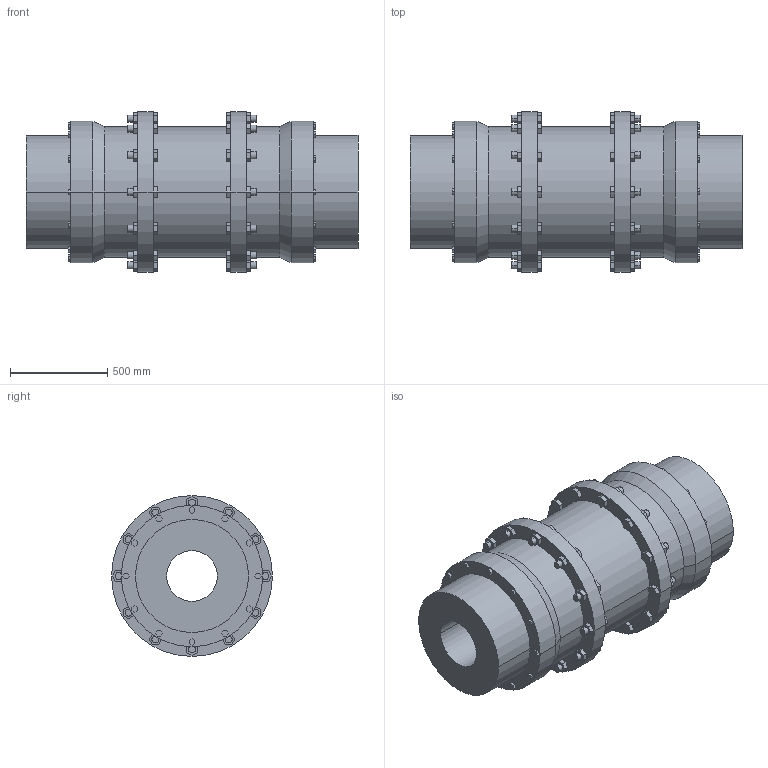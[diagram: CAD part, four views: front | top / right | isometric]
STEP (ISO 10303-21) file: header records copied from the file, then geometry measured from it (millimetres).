
FILE_DESCRIPTION((''),'2;1');
FILE_NAME('A19030000-0_ASM','2018-10-17T',('AB_Roschiwal'),('RENK AG'),'PRO/ENGINEER BY PARAMETRIC TECHNOLOGY CORPORATION, 2015440','PRO/ENGINEER BY PARAMETRIC TECHNOLOGY CORPORATION, 2015440','');
FILE_SCHEMA(('CONFIG_CONTROL_DESIGN'));
Length unit declared in the file: millimetre
Products named in the file (3): SBLK355_GEHAEUSE; SBLK355_NABE; A19030000-0_ASM
Assembly tree (3 placements, depth 2):
  A19030000-0_ASM
    SBLK355_GEHAEUSE
    SBLK355_NABE  x2
Bounding box: 1703 x 825 x 825 mm (x, y, z)
Volume: 308135612.4 mm3; surface area: 9562596.9 mm2
Topology: 3 solids, 3 shells, 632 faces, 1552 edges, 1032 vertices
Faces by surface type: plane 544, cylinder 84, cone 4
Entity records: 18164 total; most frequent: CARTESIAN_POINT 3170, ORIENTED_EDGE 3056, DIRECTION 2932, EDGE_CURVE 1528, VECTOR 1376, LINE 1376, VERTEX_POINT 1016, AXIS2_PLACEMENT_3D 778
